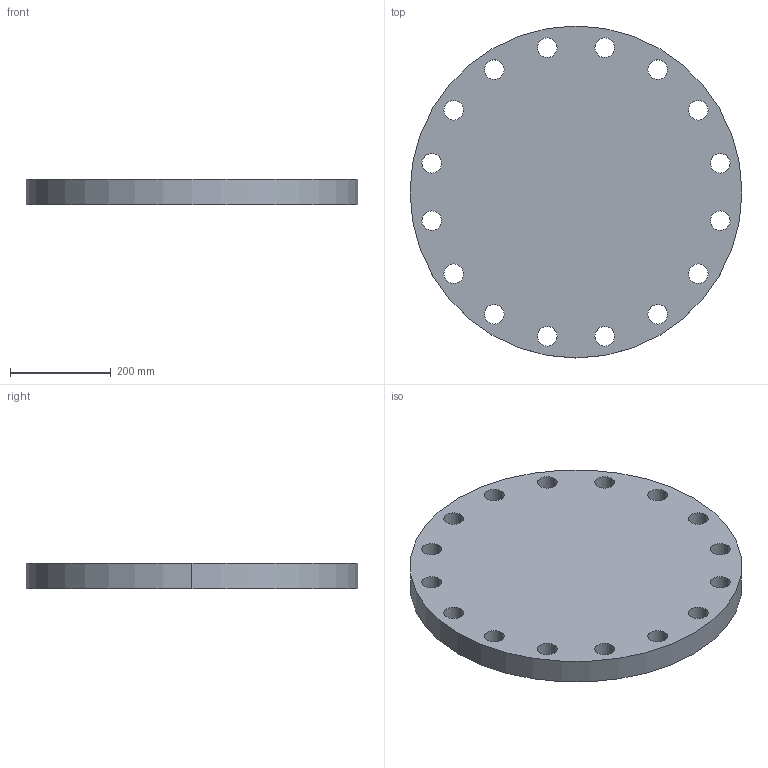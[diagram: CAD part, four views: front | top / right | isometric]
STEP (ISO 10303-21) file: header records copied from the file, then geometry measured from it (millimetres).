
FILE_DESCRIPTION (( 'STEP AP214' ), '1' );
FILE_NAME ('PN40 DN400 Type 05 - Type A Face.STEP', '2019-01-05T23:22:04', ( '' ), ( '' ), 'SwSTEP 2.0', 'SolidWorks 2019', '' );
FILE_SCHEMA (( 'AUTOMOTIVE_DESIGN' ));
Length unit declared in the file: millimetre
Products named in the file (1): PN40 DN400 Type 05 - Type A Face
Bounding box: 660 x 660 x 50 mm (x, y, z)
Volume: 16150299.5 mm3; surface area: 847702.2 mm2
Topology: 1 solids, 1 shells, 36 faces, 102 edges, 68 vertices
Faces by surface type: cylinder 34, plane 2
Entity records: 1312 total; most frequent: DIRECTION 244, CARTESIAN_POINT 207, ORIENTED_EDGE 204, AXIS2_PLACEMENT_3D 105, EDGE_CURVE 102, CIRCLE 68, VERTEX_POINT 68, EDGE_LOOP 68
